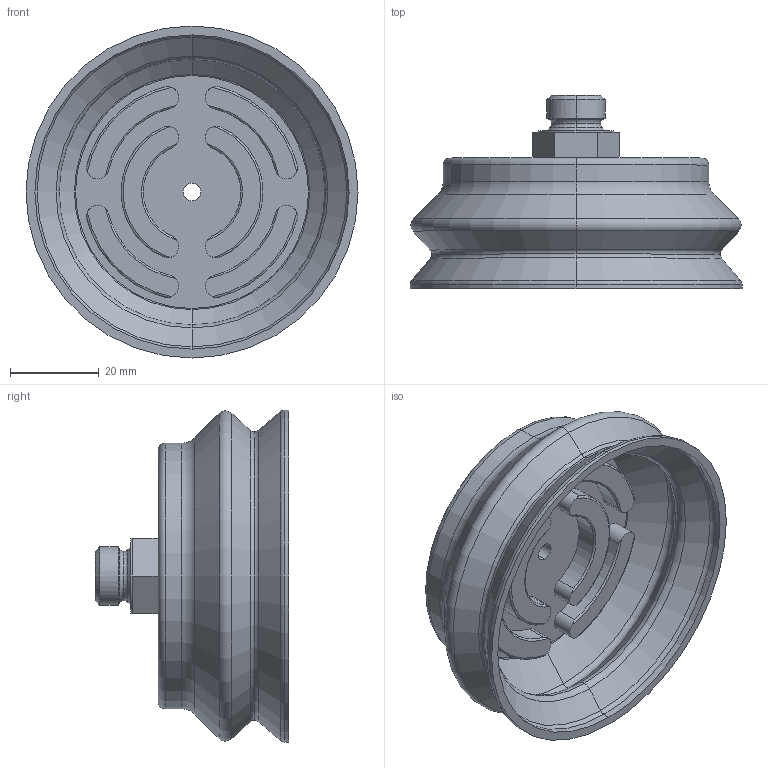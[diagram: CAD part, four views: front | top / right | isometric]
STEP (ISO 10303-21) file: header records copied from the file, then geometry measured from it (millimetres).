
FILE_DESCRIPTION (( 'STEP AP203' ), '1' );
FILE_NAME ('ZASB-75-1_4-SI.STEP', '2022-03-14T18:01:57', ( '' ), ( '' ), 'SwSTEP 2.0', 'SolidWorks 2019', '' );
FILE_SCHEMA (( 'CONFIG_CONTROL_DESIGN' ));
Length unit declared in the file: millimetre
Products named in the file (1): ZASB-75-1_4-SI
Bounding box: 75 x 43.7 x 75 mm (x, y, z)
Volume: 46002.7 mm3; surface area: 21405.7 mm2
Topology: 1 solids, 1 shells, 121 faces, 276 edges, 166 vertices
Faces by surface type: cylinder 42, torus 38, plane 23, cone 18
Entity records: 3641 total; most frequent: CARTESIAN_POINT 758, DIRECTION 656, ORIENTED_EDGE 552, AXIS2_PLACEMENT_3D 286, EDGE_CURVE 276, VERTEX_POINT 166, CIRCLE 164, EDGE_LOOP 132
